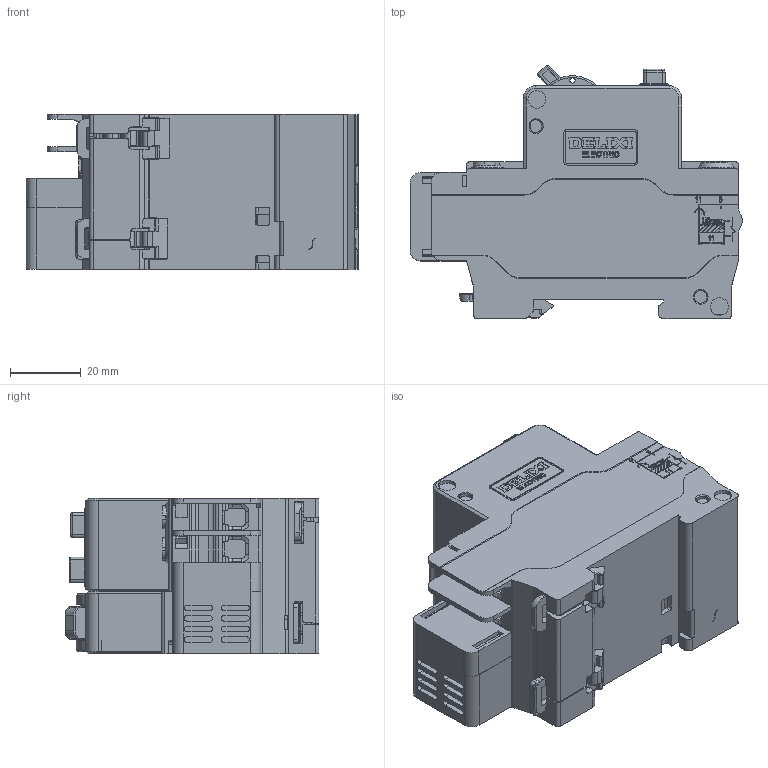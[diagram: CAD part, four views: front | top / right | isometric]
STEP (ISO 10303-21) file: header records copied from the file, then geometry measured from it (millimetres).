
FILE_DESCRIPTION((''),'2;1');
FILE_NAME('CDBHLE_1PN_32_2250005_SW0001','2019-12-23T',('dong.huang'),(''),'PRO/ENGINEER BY PARAMETRIC TECHNOLOGY CORPORATION, 2015440','PRO/ENGINEER BY PARAMETRIC TECHNOLOGY CORPORATION, 2015440','');
FILE_SCHEMA(('CONFIG_CONTROL_DESIGN'));
Products named in the file (1): CDBHLE_1PN_32_2250005_SW0001
Bounding box: 94 x 71.86 x 44.1 mm (x, y, z)
Volume: 171707.5 mm3; surface area: 49290.7 mm2
Topology: 2 solids, 7 shells, 5075 faces, 14305 edges, 9306 vertices
Faces by surface type: plane 3376, cylinder 1001, extrusion 405, cone 144, torus 66, sphere 60, bspline 23
Entity records: 166425 total; most frequent: CARTESIAN_POINT 35493, ORIENTED_EDGE 28492, DIRECTION 25255, EDGE_CURVE 14246, VECTOR 11045, LINE 10640, VERTEX_POINT 9306, AXIS2_PLACEMENT_3D 7105
